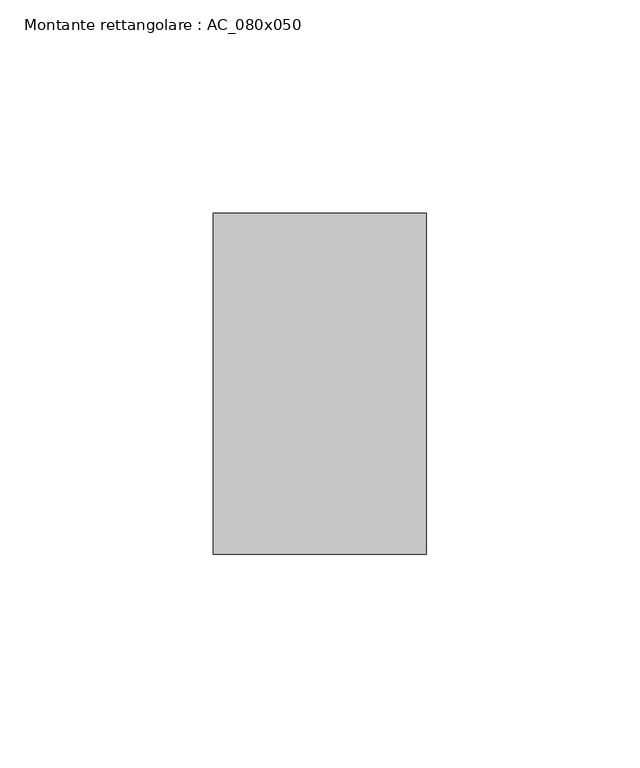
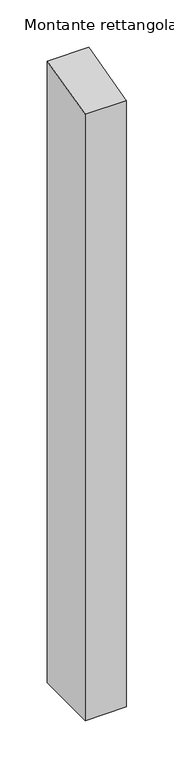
"""IFC4 building model written with IfcOpenShell, lengths in millimetres: member geometry, Montante rettangolare : AC_080x050."""

from ifc_helpers import new_model, si_unit, frame, origin, place, context, project, spatial, polyline, outline, extrude, source, transform, mapped, element, save


def montante_rettangolare_ac_080x050_1daf8e61(model_context):
    return source(origin(), model_context, "Body", "SweptSolid", [
        extrude(outline(polyline([(-40.0, -10.0262878), (40.0, 10.0262878), (40.0, -790.0), (-40.0, -790.0), (-40.0, -10.0262878)])), frame((-50.0, 0.0, 0.0), z_axis=(1.0, 0.0, 0.0), x_axis=(0.0, 1.0, 0.0)), (0.0, 0.0, 1.0), 50.0),
    ])


if __name__ == "__main__":
    model = new_model("IFC4")
    model_context = context("Model", 3, world=origin())
    ifc_project = project(units=[si_unit("LENGTHUNIT", "METRE", prefix="MILLI")], contexts=[model_context])
    site = spatial("IfcSite", under=ifc_project)
    building = spatial("IfcBuilding", under=site)
    placement = place(None, origin())
    montante_rettangolare_ac_080x050_shape = montante_rettangolare_ac_080x050_1daf8e61(model_context)
    element("IfcMember", 1, ObjectType="Montante rettangolare : AC_080x050", at=placement, inside=building, context=model_context, shape_type="MappedRepresentation", body=[
        mapped(montante_rettangolare_ac_080x050_shape, transform((0.0, 0.0, 0.0), x_axis=(1.0, 0.0, 0.0), y_axis=(0.0, 1.0, 0.0), z_axis=(0.0, 0.0, 1.0))),
    ])
    save(model, "model.ifc")
